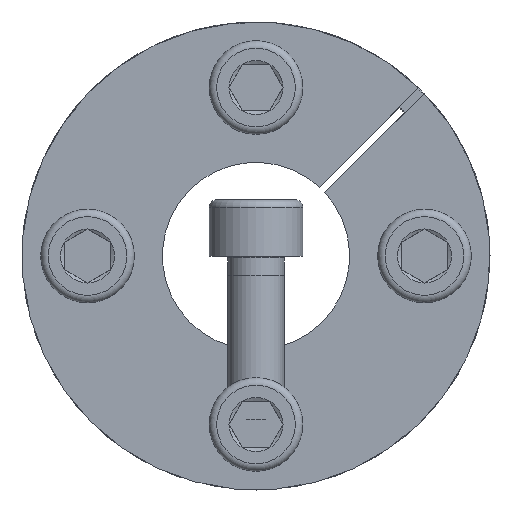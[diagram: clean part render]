
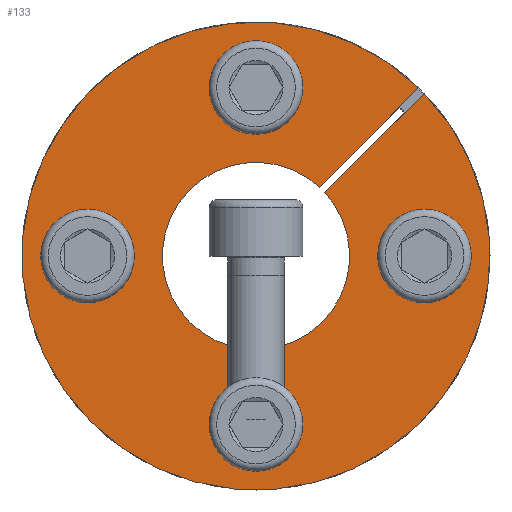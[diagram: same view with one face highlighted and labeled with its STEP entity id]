
A CAD part, front view. The second image highlights one B-rep face of the part: STEP entity #133.
In plain terms, the highlighted planar face has unit normal (0, -1, 0).
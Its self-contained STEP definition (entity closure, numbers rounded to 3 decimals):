
#133 = ADVANCED_FACE( '', ( #248, #249, #250, #251, #252 ), #253, .F. );
#248 = FACE_BOUND( '', #368, .T. );
#249 = FACE_BOUND( '', #369, .T. );
#250 = FACE_BOUND( '', #370, .T. );
#251 = FACE_BOUND( '', #371, .T. );
#252 = FACE_OUTER_BOUND( '', #372, .T. );
#253 = PLANE( '', #373 );
#368 = EDGE_LOOP( '', ( #672 ) );
#369 = EDGE_LOOP( '', ( #673 ) );
#370 = EDGE_LOOP( '', ( #674 ) );
#371 = EDGE_LOOP( '', ( #675 ) );
#372 = EDGE_LOOP( '', ( #676, #677, #678, #679 ) );
#373 = AXIS2_PLACEMENT_3D( '', #680, #681, #682 );
#672 = ORIENTED_EDGE( '', *, *, #1019, .T. );
#673 = ORIENTED_EDGE( '', *, *, #1016, .T. );
#674 = ORIENTED_EDGE( '', *, *, #1020, .T. );
#675 = ORIENTED_EDGE( '', *, *, #954, .T. );
#676 = ORIENTED_EDGE( '', *, *, #984, .T. );
#677 = ORIENTED_EDGE( '', *, *, #959, .T. );
#678 = ORIENTED_EDGE( '', *, *, #1010, .T. );
#679 = ORIENTED_EDGE( '', *, *, #1008, .F. );
#680 = CARTESIAN_POINT( '', ( 0., 0., 25. ) );
#681 = DIRECTION( '', ( 0., 1., 0. ) );
#682 = DIRECTION( '', ( 0., 0., 1. ) );
#954 = EDGE_CURVE( '', #1280, #1280, #1281, .T. );
#959 = EDGE_CURVE( '', #1284, #1288, #1290, .T. );
#984 = EDGE_CURVE( '', #1318, #1284, #1331, .T. );
#1008 = EDGE_CURVE( '', #1318, #1362, #1364, .T. );
#1010 = EDGE_CURVE( '', #1288, #1362, #1366, .T. );
#1016 = EDGE_CURVE( '', #1372, #1372, #1373, .T. );
#1019 = EDGE_CURVE( '', #1376, #1376, #1377, .T. );
#1020 = EDGE_CURVE( '', #1378, #1378, #1379, .T. );
#1280 = VERTEX_POINT( '', #1977 );
#1281 = CIRCLE( '', #1978, 3. );
#1284 = VERTEX_POINT( '', #1981 );
#1288 = VERTEX_POINT( '', #1986 );
#1290 = CIRCLE( '', #1989, 25. );
#1318 = VERTEX_POINT( '', #2021 );
#1331 = LINE( '', #2050, #2051 );
#1362 = VERTEX_POINT( '', #2091 );
#1364 = CIRCLE( '', #2094, 10. );
#1366 = LINE( '', #2096, #2097 );
#1372 = VERTEX_POINT( '', #2109 );
#1373 = CIRCLE( '', #2110, 3. );
#1376 = VERTEX_POINT( '', #2113 );
#1377 = CIRCLE( '', #2114, 3. );
#1378 = VERTEX_POINT( '', #2115 );
#1379 = CIRCLE( '', #2116, 3. );
#1977 = CARTESIAN_POINT( '', ( -18., 0., 3. ) );
#1978 = AXIS2_PLACEMENT_3D( '', #2271, #2272, #2273 );
#1981 = CARTESIAN_POINT( '', ( 17.393, 0., 17.958 ) );
#1986 = CARTESIAN_POINT( '', ( 17.958, 0., 17.393 ) );
#1989 = AXIS2_PLACEMENT_3D( '', #2279, #2280, #2281 );
#2021 = CARTESIAN_POINT( '', ( 6.783, 0., 7.348 ) );
#2050 = CARTESIAN_POINT( '', ( 6.783, 0., 7.348 ) );
#2051 = VECTOR( '', #2311, 1000. );
#2091 = CARTESIAN_POINT( '', ( 7.348, 0., 6.783 ) );
#2094 = AXIS2_PLACEMENT_3D( '', #2343, #2344, #2345 );
#2096 = CARTESIAN_POINT( '', ( 17.961, 0., 17.395 ) );
#2097 = VECTOR( '', #2346, 1000. );
#2109 = CARTESIAN_POINT( '', ( 18., 0., -3. ) );
#2110 = AXIS2_PLACEMENT_3D( '', #2350, #2351, #2352 );
#2113 = CARTESIAN_POINT( '', ( 3., 0., 18. ) );
#2114 = AXIS2_PLACEMENT_3D( '', #2353, #2354, #2355 );
#2115 = CARTESIAN_POINT( '', ( -3., 0., -18. ) );
#2116 = AXIS2_PLACEMENT_3D( '', #2356, #2357, #2358 );
#2271 = CARTESIAN_POINT( '', ( -18., 0., 0. ) );
#2272 = DIRECTION( '', ( 0., 1., 0. ) );
#2273 = DIRECTION( '', ( 0., 0., 1. ) );
#2279 = CARTESIAN_POINT( '', ( 0., 0., 0. ) );
#2280 = DIRECTION( '', ( 0., -1., 0. ) );
#2281 = DIRECTION( '', ( 0., 0., -1. ) );
#2311 = DIRECTION( '', ( 0.707, 0., 0.707 ) );
#2343 = CARTESIAN_POINT( '', ( 0., 0., 0. ) );
#2344 = DIRECTION( '', ( 0., -1., 0. ) );
#2345 = DIRECTION( '', ( 0., 0., -1. ) );
#2346 = DIRECTION( '', ( -0.707, 0., -0.707 ) );
#2350 = CARTESIAN_POINT( '', ( 18., 0., 0. ) );
#2351 = DIRECTION( '', ( 0., 1., 0. ) );
#2352 = DIRECTION( '', ( 0., 0., -1. ) );
#2353 = CARTESIAN_POINT( '', ( 0., 0., 18. ) );
#2354 = DIRECTION( '', ( 0., 1., 0. ) );
#2355 = DIRECTION( '', ( 1., 0., 0. ) );
#2356 = CARTESIAN_POINT( '', ( 0., 0., -18. ) );
#2357 = DIRECTION( '', ( 0., 1., 0. ) );
#2358 = DIRECTION( '', ( -1., 0., 0. ) );
